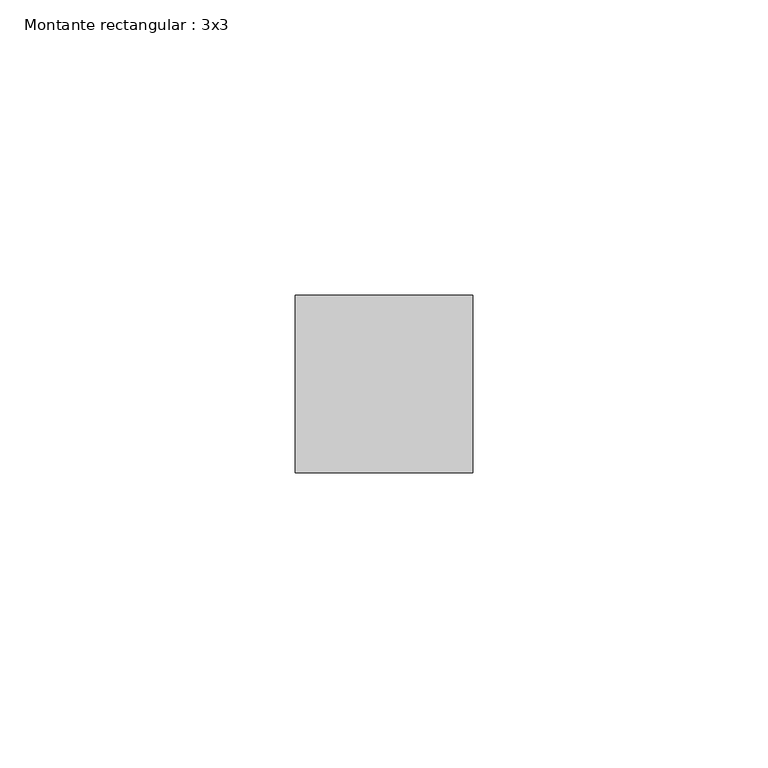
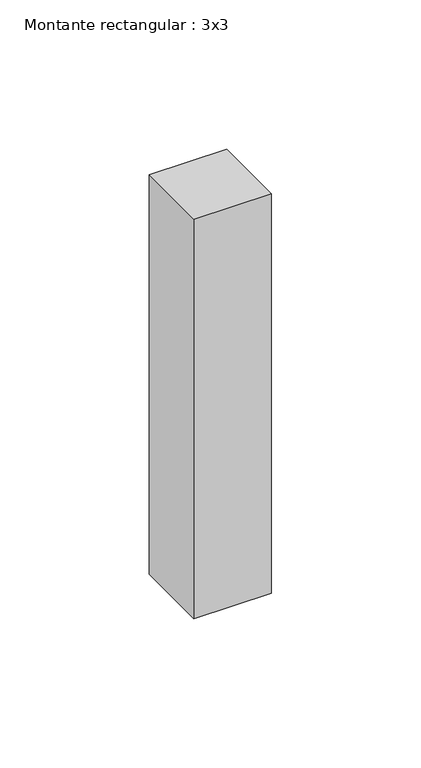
"""IFC4 building model written with IfcOpenShell, lengths in millimetres: member geometry, Montante rectangular : 3x3."""

from ifc_helpers import new_model, si_unit, frame, origin, place, context, project, spatial, polyline, outline, extrude, source, transform, mapped, element, save


def montante_rectangular_3x3_d5ae10cf(model_context):
    return source(origin(), model_context, "Body", "SweptSolid", [
        extrude(outline(polyline([(0.0, 15.0), (0.0, -15.0), (-30.0, -15.0), (-30.0, 15.0), (0.0, 15.0)])), frame((0.0, 0.0, -163.5064249), z_axis=(0.0, 0.0, 1.0), x_axis=(1.0, 0.0, 0.0)), (0.0, 0.0, 1.0), 163.5064249),
    ])


if __name__ == "__main__":
    model = new_model("IFC4")
    model_context = context("Model", 3, world=origin())
    ifc_project = project(units=[si_unit("LENGTHUNIT", "METRE", prefix="MILLI")], contexts=[model_context])
    site = spatial("IfcSite", under=ifc_project)
    building = spatial("IfcBuilding", under=site)
    placement = place(None, origin())
    montante_rectangular_3x3_shape = montante_rectangular_3x3_d5ae10cf(model_context)
    element("IfcMember", 1, ObjectType="Montante rectangular : 3x3", at=placement, inside=building, context=model_context, shape_type="MappedRepresentation", body=[
        mapped(montante_rectangular_3x3_shape, transform((0.0, 0.0, 0.0), x_axis=(1.0, 0.0, 0.0), y_axis=(0.0, 1.0, 0.0), z_axis=(0.0, 0.0, 1.0))),
    ])
    save(model, "model.ifc")
